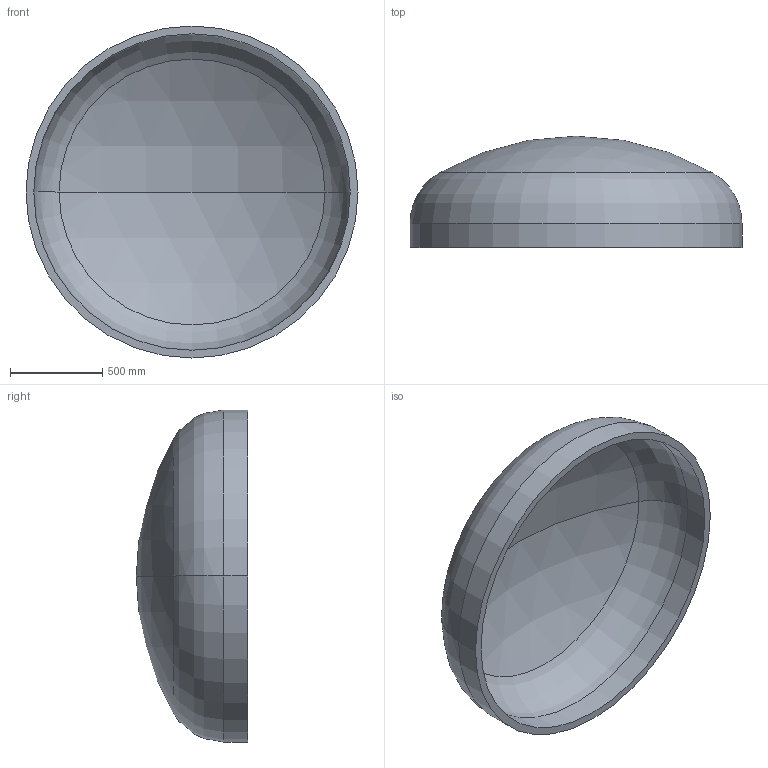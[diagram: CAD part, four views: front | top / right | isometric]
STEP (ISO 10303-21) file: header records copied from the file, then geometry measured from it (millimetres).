
FILE_DESCRIPTION (( 'STEP AP203' ), '1' );
FILE_NAME ('DIN 28013 Korbbogenform_-_Boden DIN 28013 - 1800 x 130 - I - s=42.step', '2016-07-01T12:30:34', ( '' ), ( '' ), 'SwSTEP 2.0', 'SolidWorks 2013', '' );
FILE_SCHEMA (( 'CONFIG_CONTROL_DESIGN' ));
Length unit declared in the file: millimetre
Products named in the file (1): DIN 28013 Korbbogenform_-_Boden DIN 28013 - 1800 x 130 - I - s=42
Bounding box: 1800 x 603.37 x 1800 mm (x, y, z)
Volume: 173483972.7 mm3; surface area: 8496796.2 mm2
Topology: 1 solids, 1 shells, 13 faces, 24 edges, 14 vertices
Faces by surface type: torus 4, cylinder 4, sphere 4, plane 1
Entity records: 407 total; most frequent: DIRECTION 72, CARTESIAN_POINT 52, ORIENTED_EDGE 48, AXIS2_PLACEMENT_3D 34, EDGE_CURVE 24, CIRCLE 20, VERTEX_POINT 14, EDGE_LOOP 14
